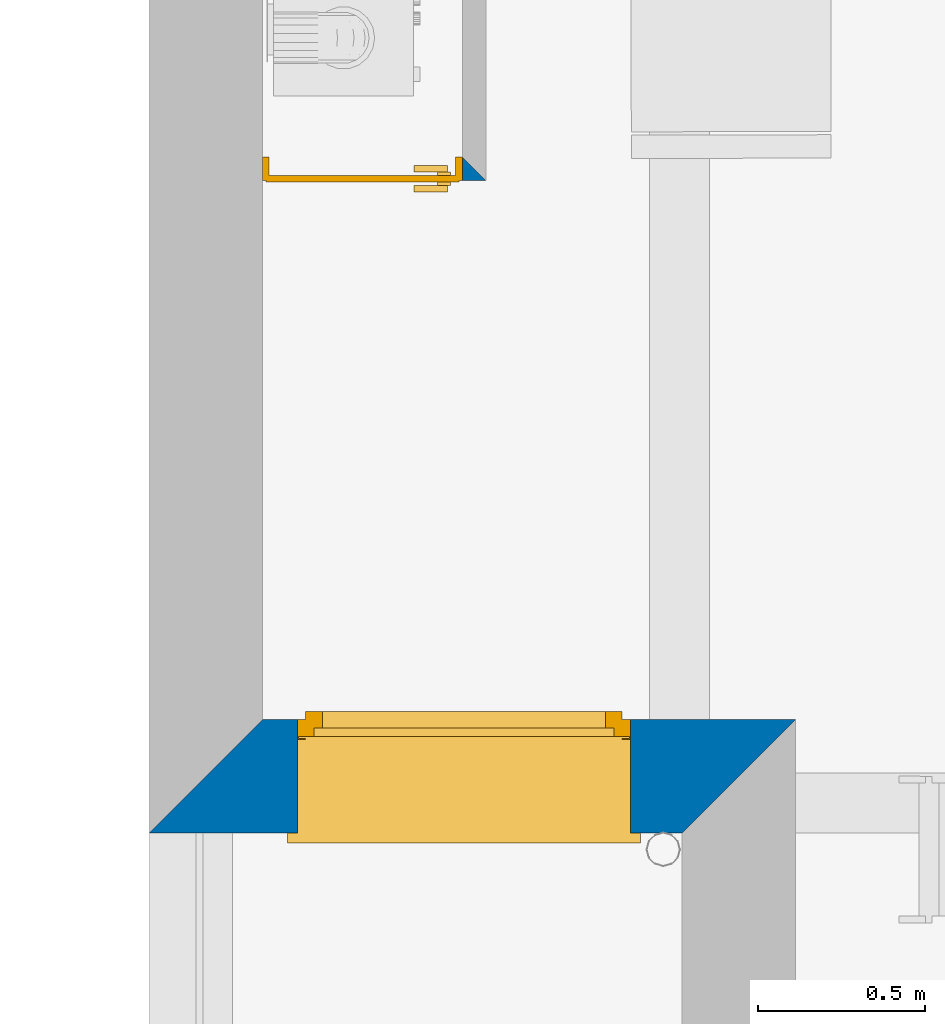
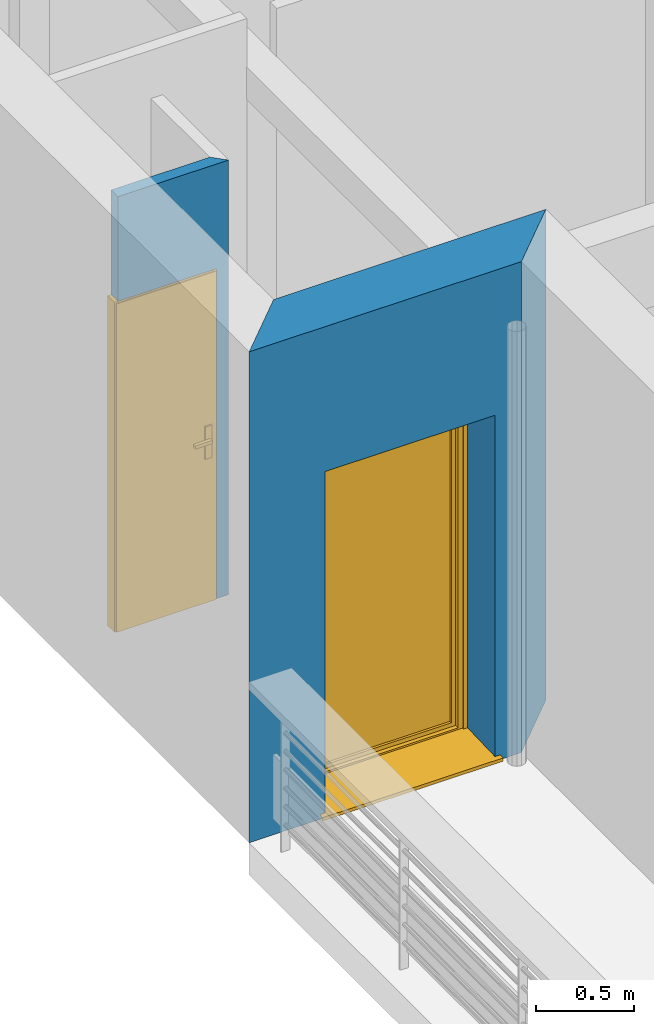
# One storey, part 3 of 165: 2 walls, 1 door, 1 window, 2 openings.
"""IFC2X3 building model written with IfcOpenShell, lengths in millimetres."""

from ifc_helpers import new_model, entity, si_unit, converted_unit, derived_unit, money_unit, direction, frame, origin_with_axes, origin_2d_with_axis, place, context, subcontext, project, spatial, polyline, rectangle, outline, extrude, open_shell, faceted_brep, surface_model, source, transform, mapped, material, layer, layer_set, layer_usage, type_object, element, fill, save


model = new_model("IFC2X3")

# Units and contexts
model_context = context("Model", 3, precision=0.01, world=origin_with_axes(), true_north=direction((0.0, 1.0)))
body_context = subcontext(model_context, "Body", "Model", "MODEL_VIEW")
ifc_project = project(units=[si_unit("LENGTHUNIT", "METRE", prefix="MILLI"), si_unit("AREAUNIT", "SQUARE_METRE"), si_unit("VOLUMEUNIT", "CUBIC_METRE"), converted_unit("PLANEANGLEUNIT", "DEGREE", entity("IfcPlaneAngleMeasure", 0.0174532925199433), si_unit("PLANEANGLEUNIT", "RADIAN"), dimensions=[0, 0, 0, 0, 0, 0, 0]), money_unit("USD"), converted_unit("TIMEUNIT", "Year", entity("IfcTimeMeasure", 31557600.0), si_unit("TIMEUNIT", "SECOND"), dimensions=[0, 0, 1, 0, 0, 0, 0]), si_unit("MASSUNIT", "GRAM", prefix="KILO"), si_unit("THERMODYNAMICTEMPERATUREUNIT", "DEGREE_CELSIUS"), si_unit("LUMINOUSINTENSITYUNIT", "LUMEN"), si_unit("ENERGYUNIT", "JOULE", prefix="MEGA"), derived_unit("THERMALCONDUCTANCEUNIT", [(si_unit("POWERUNIT", "WATT"), 1), (si_unit("LENGTHUNIT", "METRE"), -1), (si_unit("THERMODYNAMICTEMPERATUREUNIT", "KELVIN"), -1)]), derived_unit("SPECIFICHEATCAPACITYUNIT", [(si_unit("ENERGYUNIT", "JOULE"), 1), (si_unit("MASSUNIT", "GRAM", prefix="KILO"), -1), (si_unit("THERMODYNAMICTEMPERATUREUNIT", "KELVIN"), -1)]), derived_unit("MASSDENSITYUNIT", [(si_unit("MASSUNIT", "GRAM", prefix="KILO"), 1), (si_unit("VOLUMEUNIT", "CUBIC_METRE"), -1)])], contexts=[model_context])

# Site, building, storey
site_placement = place(None, origin_with_axes())
site = spatial("IfcSite", under=ifc_project, at=site_placement, Name="Site", CompositionType="ELEMENT")
building_placement = place(site_placement, origin_with_axes())
building = spatial("IfcBuilding", under=site, at=building_placement, Name="Bâtiment", CompositionType="ELEMENT")
storey_placement = place(building_placement, frame((0.0, 0.0, 8500.0), z_axis=(0.0, 0.0, 1.0), x_axis=(1.0, 0.0, 0.0)))
storey = spatial("IfcBuildingStorey", under=building, at=storey_placement, Name="Etage 2", CompositionType="ELEMENT", Elevation=8500.0)

# Wall, opening, door
ifc_material_1 = material(Name="Hachure solide 268963992")
ifc_layer_1 = layer(ifc_material_1, 70.0, ventilated="UNKNOWN")
ifc_layer_set_1 = layer_set([ifc_layer_1], Name="Cloison 70 0826278243")
ifc_layer_usage_1 = layer_usage(ifc_layer_set_1, "AXIS2", "NEGATIVE", 70.0)
wall_type_1 = type_object("IfcWallType", Name="Cloison 70 0826278243 70", PredefinedType="NOTDEFINED")
wall_1_placement = place(storey_placement, frame((2216994.233340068, -653082.9598893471, 0.0), z_axis=(0.0, 0.0, 1.0), x_axis=(1.0, 0.0, 0.0)))
wall_1 = element("IfcWallStandardCase", 1, at=wall_1_placement, inside=storey, type_object=wall_type_1, material=ifc_layer_usage_1, Name="Mur-149", context=body_context, shape_type="SweptSolid", body=[
    extrude(outline(polyline([(0.0, 0.0), (650.4101075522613, 0.0), (580.4101075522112, 69.99999999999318), (0.0, 69.99999999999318), (0.0, 0.0)])), origin_with_axes(), (0.0, 0.0, 1.0), 2700.0),
])
opening_1_placement = place(wall_1_placement, frame((279.9999999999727, 0.0, 0.0), z_axis=(0.0, 0.0, 1.0), x_axis=(1.0, 0.0, 0.0)))
opening_1 = element("IfcOpeningElement", 2, at=opening_1_placement, cuts=wall_1, Name="Por-274", context=body_context, shape_type="SweptSolid", body=[
    extrude(rectangle(XDim=600.0000000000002, YDim=2050.000000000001, at=origin_2d_with_axis()), frame((0.0, 69.99999999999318, 1025.0), z_axis=(0.0, -1.0, 0.0), x_axis=(-1.0, 0.0, 0.0)), (0.0, 0.0, 1.0), 140.0),
])
door_style = type_object("IfcDoorStyle", Name="Porte_1v", ConstructionType="NOTDEFINED", OperationType="NOTDEFINED", ParameterTakesPrecedence=False, Sizeable=False)
shared_shape_1 = source(origin_with_axes(), body_context, "Body", "Brep", [
    faceted_brep([(300.0, 0.0, 0.0), (290.0, 0.0, 0.0), (290.0, 0.0, 2040.0), (-290.0, 0.0, 2040.0), (-290.0, 0.0, 0.0), (-300.0, 0.0, 0.0), (-300.0, 0.0, 2050.0), (300.0, 0.0, 2050.0), (300.0, -70.0, 0.0), (279.9999999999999, -70.0, 0.0), (279.9999999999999, -15.0, 0.0), (290.0, -15.0, 0.0), (290.0, -15.0, 2040.0), (-290.0, -15.0, 2040.0), (-290.0, -15.0, 0.0), (-279.9999999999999, -15.0, 0.0), (-279.9999999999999, -70.0, 0.0), (-300.0, -70.0, 0.0), (-300.0, -70.0, 2050.0), (300.0, -70.0, 2050.0), (-279.9999999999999, -70.0, 2030.0), (279.9999999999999, -70.0, 2030.0), (279.9999999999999, -15.0, 2030.0), (-279.9999999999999, -15.0, 2030.0)], [[[0, 1, 2, 3, 4, 5, 6, 7]], [[0, 8, 9, 10, 11, 1]], [[1, 11, 12, 2]], [[2, 12, 13, 3]], [[3, 13, 14, 4]], [[5, 4, 14, 15, 16, 17]], [[18, 6, 5, 17]], [[19, 7, 6, 18]], [[8, 0, 7, 19]], [[9, 8, 19, 18, 17, 16, 20, 21]], [[10, 9, 21, 22]], [[11, 10, 22, 23, 15, 14, 13, 12]], [[23, 20, 16, 15]], [[22, 21, 20, 23]]]),
    faceted_brep([(-224.9999999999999, -15.0, 900.0), (-264.9999999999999, -15.0, 900.0), (-264.9999999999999, -15.0, 1100.0), (-224.9999999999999, -15.0, 1100.0), (-224.9999999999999, -25.0, 900.0), (-264.9999999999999, -25.0, 900.0), (-264.9999999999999, -25.0, 1100.0), (-224.9999999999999, -25.0, 1100.0)], [[[0, 1, 2, 3]], [[1, 0, 4, 5]], [[2, 1, 5, 6]], [[3, 2, 6, 7]], [[0, 3, 7, 4]], [[5, 4, 7, 6]]]),
    faceted_brep([(-154.9999999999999, -25.0, 1000.0), (-254.9999999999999, -25.0, 1000.0), (-254.9999999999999, -25.0, 1020.0), (-154.9999999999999, -25.0, 1020.0), (-154.9999999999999, -45.0, 1000.0), (-254.9999999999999, -45.0, 1000.0), (-254.9999999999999, -45.0, 1020.0), (-154.9999999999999, -45.0, 1020.0)], [[[0, 1, 2, 3]], [[1, 0, 4, 5]], [[2, 1, 5, 6]], [[3, 2, 6, 7]], [[0, 3, 7, 4]], [[5, 4, 7, 6]]]),
    faceted_brep([(-224.9999999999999, 15.0, 900.0), (-264.9999999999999, 15.0, 900.0), (-264.9999999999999, 15.0, 1100.0), (-224.9999999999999, 15.0, 1100.0), (-224.9999999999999, 5.000000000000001, 900.0), (-264.9999999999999, 5.000000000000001, 900.0), (-264.9999999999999, 5.000000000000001, 1100.0), (-224.9999999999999, 5.000000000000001, 1100.0)], [[[0, 1, 2, 3]], [[1, 0, 4, 5]], [[2, 1, 5, 6]], [[3, 2, 6, 7]], [[0, 3, 7, 4]], [[5, 4, 7, 6]]]),
    faceted_brep([(-154.9999999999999, 35.0, 1000.0), (-254.9999999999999, 35.0, 1000.0), (-254.9999999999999, 35.0, 1020.0), (-154.9999999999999, 35.0, 1020.0), (-154.9999999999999, 15.0, 1000.0), (-254.9999999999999, 15.0, 1000.0), (-254.9999999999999, 15.0, 1020.0), (-154.9999999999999, 15.0, 1020.0)], [[[0, 1, 2, 3]], [[1, 0, 4, 5]], [[2, 1, 5, 6]], [[3, 2, 6, 7]], [[0, 3, 7, 4]], [[5, 4, 7, 6]]]),
    faceted_brep([(-290.0, 5.000000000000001, 0.0), (290.0, 5.000000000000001, 0.0), (290.0, -15.0, 0.0), (-290.0, -15.0, 0.0), (-290.0, 5.000000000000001, 2040.0), (290.0, 5.000000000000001, 2040.0), (290.0, -15.0, 2040.0), (-290.0, -15.0, 2040.0)], [[[0, 1, 2, 3]], [[0, 4, 5, 1]], [[1, 5, 6, 2]], [[3, 2, 6, 7]], [[4, 0, 3, 7]], [[5, 4, 7, 6]]]),
])
door_placement = place(opening_1_placement, frame((289.9999999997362, 0.0, 0.0), z_axis=(0.0, 0.0, 1.0), x_axis=(-1.0, 0.0, 0.0)))
door = element("IfcDoor", 3, at=door_placement, inside=storey, type_object=door_style, Name="Por-274", OverallHeight=2040.0, OverallWidth=580.0, context=body_context, shape_type="MappedRepresentation", body=[
    mapped(shared_shape_1, transform((289.9999999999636, 0.0, 0.0))),
])
fill(opening_1, door)

# Wall, opening, window
ifc_material_2 = material(Name="Parpaing 312445824")
ifc_layer_2 = layer(ifc_material_2, 180.0, ventilated="UNKNOWN")
ifc_material_3 = material(Name="Isolant styromousse 301821074")
ifc_layer_3 = layer(ifc_material_3, 160.0, ventilated="UNKNOWN")
ifc_layer_set_2 = layer_set([ifc_layer_2, ifc_layer_3], Name="isol int 18+16 0018356637")
ifc_layer_usage_2 = layer_usage(ifc_layer_set_2, "AXIS2", "POSITIVE", 0.0)
wall_type_2 = type_object("IfcWallType", Name="isol int 18+16 0018356637 340", PredefinedType="NOTDEFINED")
wall_2_placement = place(storey_placement, frame((2216634.233338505, -655041.4677782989, 0.0), z_axis=(0.0, 0.0, 1.0), x_axis=(1.0, 0.0, 0.0)))
wall_2 = element("IfcWallStandardCase", 4, at=wall_2_placement, inside=storey, type_object=wall_type_2, material=ifc_layer_usage_2, Name="Mur-143", context=body_context, shape_type="SweptSolid", body=[
    extrude(outline(polyline([(0.0, 0.0), (1600.000000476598, 0.0), (1940.00000047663, 340.0000000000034), (340.0000001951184, 340.0000000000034), (0.0, 0.0)])), origin_with_axes(), (0.0, 0.0, 1.0), 3050.0),
])
opening_2_placement = place(wall_2_placement, frame((944.7801254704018, 0.0, 0.0), z_axis=(0.0, 0.0, 1.0), x_axis=(1.0, 0.0, 0.0)))
opening_2 = element("IfcOpeningElement", 5, at=opening_2_placement, cuts=wall_2, Name="Fen-209", context=body_context, shape_type="Brep", body=[
    faceted_brep([(-500.0, 341.0000000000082, 2150.0), (500.0, 341.0000000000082, 2150.0), (500.0, 341.0000000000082, 0.0), (-500.0, 341.0000000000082, 0.0), (-500.0, 530.0000000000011, 2150.0), (500.0, 530.0000000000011, 2150.0), (500.0, 290.0000000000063, 2150.0), (500.0, 290.0000000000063, 0.0), (500.0, -1.000000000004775, 0.0), (-500.0, -1.000000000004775, 0.0), (-500.0, 290.0000000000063, 0.0), (-500.0, 290.0000000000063, 2150.0), (-500.0, 280.0000000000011, 2150.0), (-500.0, 280.0000000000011, 2400.0), (-500.0, 530.0000000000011, 2400.0), (500.0, 530.0000000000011, 2400.0), (500.0, 280.0000000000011, 2400.0), (500.0, 280.0000000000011, 2150.0), (500.0, -1.000000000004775, 2150.0), (-500.0, -1.000000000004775, 2150.0)], [[[0, 1, 2, 3]], [[1, 0, 4, 5]], [[1, 6, 7, 2]], [[7, 8, 9, 10, 3, 2]], [[11, 0, 3, 10]], [[0, 11, 12, 13, 14, 4]], [[4, 14, 15, 5]], [[6, 1, 5, 15, 16, 17]], [[6, 17, 18, 8, 7]], [[19, 9, 8, 18]], [[12, 11, 10, 9, 19]], [[12, 17, 16, 13]], [[14, 13, 16, 15]], [[17, 12, 19, 18]]]),
])
window_style = type_object("IfcWindowStyle", Name="Fenêtre 27", ConstructionType="NOTDEFINED", OperationType="SINGLE_PANEL", ParameterTakesPrecedence=False, Sizeable=False)
shared_shape_2 = source(origin_with_axes(), body_context, "Body", "SurfaceModel", [
    surface_model("IfcShellBasedSurfaceModel", [(-500.0, -51.00000000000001, 40.00000000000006), (500.0, -51.00000000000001, 40.0), (500.0, -51.00000000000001, 50.0), (-500.0, -51.00000000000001, 50.00000000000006), (-530.0, -369.9999999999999, 28.96551724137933), (530.0, -369.9999999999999, 28.96551724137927), (530.0, -339.9999999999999, 30.00324289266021), (500.0, -339.9999999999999, 30.00324289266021), (-500.0, -339.9999999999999, 30.00324289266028), (-530.0, -339.9999999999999, 30.00324289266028), (-530.0, -369.9999999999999, 8.96551724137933), (530.0, -369.9999999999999, 8.965517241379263), (-530.0, -359.9999999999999, 18.96551724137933), (530.0, -359.9999999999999, 18.96551724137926)], [open_shell([[[0, 1, 2, 3]], [[4, 5, 6, 7, 1, 0, 8, 9]], [[10, 11, 5, 4]], [[12, 13, 11, 10]]])]),
    faceted_brep([(500.0, -59.99999999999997, 2400.0), (500.0, 190.0, 2400.0), (497.0, 190.0, 2400.0), (497.0, -59.99999999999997, 2400.0), (500.0, -59.99999999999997, 2150.0), (500.0, 190.0, 2150.0), (497.0, 190.0, 2150.0), (497.0, -59.99999999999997, 2150.0)], [[[0, 1, 2, 3]], [[0, 4, 5, 1]], [[1, 5, 6, 2]], [[3, 2, 6, 7]], [[4, 0, 3, 7]], [[5, 4, 7, 6]]]),
    faceted_brep([(-497.0, -59.99999999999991, 2400.0), (-497.0, 190.0000000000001, 2400.0), (-500.0, 190.0000000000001, 2400.0), (-500.0, -59.99999999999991, 2400.0), (-497.0, -59.99999999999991, 2150.0), (-497.0, 190.0000000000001, 2150.0), (-500.0, 190.0000000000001, 2150.0), (-500.0, -59.99999999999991, 2150.0)], [[[0, 1, 2, 3]], [[0, 4, 5, 1]], [[1, 5, 6, 2]], [[3, 2, 6, 7]], [[4, 0, 3, 7]], [[5, 4, 7, 6]]]),
    faceted_brep([(497.0, -60.0, 2150.0), (497.0, -60.0, 2400.0), (-497.0, -59.99999999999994, 2400.0), (-497.0, -59.99999999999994, 2150.0), (497.0, -56.99999999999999, 2150.0), (497.0, -56.99999999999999, 2397.0), (497.0, 187.0, 2397.0), (497.0, 187.0, 2153.0), (497.0, -37.99999999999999, 2153.0), (497.0, -37.99999999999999, 2150.0), (497.0, 190.0, 2150.0), (497.0, 190.0, 2400.0), (-497.0, 190.0000000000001, 2400.0), (-497.0, 190.0000000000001, 2150.0), (-497.0, -37.99999999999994, 2150.0), (-497.0, -37.99999999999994, 2153.0), (-497.0, 187.0000000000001, 2153.0), (-497.0, 187.0000000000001, 2397.0), (-497.0, -56.99999999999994, 2397.0), (-497.0, -56.99999999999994, 2150.0)], [[[0, 1, 2, 3]], [[0, 4, 5, 6, 7, 8, 9, 10, 11, 1]], [[1, 11, 12, 2]], [[3, 2, 12, 13, 14, 15, 16, 17, 18, 19]], [[4, 0, 3, 19]], [[5, 4, 19, 18]], [[6, 5, 18, 17]], [[7, 6, 17, 16]], [[8, 7, 16, 15]], [[9, 8, 15, 14]], [[10, 9, 14, 13]], [[11, 10, 13, 12]]]),
    faceted_brep([(494.0, -40.37442957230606, 2256.419644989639), (494.0, -35.54711042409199, 2238.403844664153), (494.0, -27.66471820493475, 2221.5), (494.0, -16.9667554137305, 2206.22172576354), (494.0, -3.778274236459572, 2193.033244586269), (494.0, 11.50000000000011, 2182.335281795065), (494.0, 28.40384466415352, 2174.452889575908), (494.0, 46.4196449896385, 2169.625570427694), (494.0, 65.00000000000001, 2168.0), (494.0, 83.58035501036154, 2169.625570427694), (494.0, 101.5961553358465, 2174.452889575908), (494.0, 118.4999999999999, 2182.335281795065), (494.0, 133.7782742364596, 2193.033244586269), (494.0, 146.9667554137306, 2206.22172576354), (494.0, 157.6647182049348, 2221.5), (494.0, 165.5471104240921, 2238.403844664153), (494.0, 170.3744295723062, 2256.419644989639), (494.0, 171.9999999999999, 2275.0), (494.0, 170.3744295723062, 2293.580355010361), (494.0, 165.5471104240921, 2311.596155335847), (494.0, 157.6647182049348, 2328.5), (494.0, 146.9667554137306, 2343.77827423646), (494.0, 133.7782742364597, 2356.96675541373), (494.0, 118.5, 2367.664718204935), (494.0, 101.5961553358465, 2375.547110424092), (494.0, 83.58035501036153, 2380.374429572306), (494.0, 64.99999999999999, 2382.0), (494.0, 46.41964498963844, 2380.374429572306), (494.0, 28.40384466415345, 2375.547110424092), (494.0, 11.5, 2367.664718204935), (494.0, -3.778274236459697, 2356.96675541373), (494.0, -16.96675541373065, 2343.77827423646), (494.0, -27.66471820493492, 2328.5), (494.0, -35.54711042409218, 2311.596155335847), (494.0, -40.37442957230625, 2293.580355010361), (494.0, -41.99999999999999, 2275.0), (-494.0, -40.374429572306, 2256.419644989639), (-494.0, -35.54711042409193, 2238.403844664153), (-494.0, -27.6647182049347, 2221.5), (-494.0, -16.96675541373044, 2206.22172576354), (-494.0, -3.778274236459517, 2193.033244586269), (-494.0, 11.50000000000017, 2182.335281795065), (-494.0, 28.40384466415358, 2174.452889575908), (-494.0, 46.41964498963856, 2169.625570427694), (-494.0, 65.00000000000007, 2168.0), (-494.0, 83.5803550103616, 2169.625570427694), (-494.0, 101.5961553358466, 2174.452889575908), (-494.0, 118.5, 2182.335281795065), (-494.0, 133.7782742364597, 2193.033244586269), (-494.0, 146.9667554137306, 2206.22172576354), (-494.0, 157.6647182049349, 2221.5), (-494.0, 165.5471104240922, 2238.403844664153), (-494.0, 170.3744295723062, 2256.419644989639), (-494.0, 172.0, 2275.0), (-494.0, 170.3744295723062, 2293.580355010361), (-494.0, 165.5471104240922, 2311.596155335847), (-494.0, 157.6647182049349, 2328.5), (-494.0, 146.9667554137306, 2343.77827423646), (-494.0, 133.7782742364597, 2356.96675541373), (-494.0, 118.5, 2367.664718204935), (-494.0, 101.5961553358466, 2375.547110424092), (-494.0, 83.58035501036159, 2380.374429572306), (-494.0, 65.00000000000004, 2382.0), (-494.0, 46.41964498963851, 2380.374429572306), (-494.0, 28.40384466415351, 2375.547110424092), (-494.0, 11.50000000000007, 2367.664718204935), (-494.0, -3.778274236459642, 2356.96675541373), (-494.0, -16.96675541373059, 2343.77827423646), (-494.0, -27.66471820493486, 2328.5), (-494.0, -35.54711042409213, 2311.596155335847), (-494.0, -40.37442957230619, 2293.580355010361), (-494.0, -41.99999999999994, 2275.0)], [[[0, 1, 2, 3, 4, 5, 6, 7, 8, 9, 10, 11, 12, 13, 14, 15, 16, 17, 18, 19, 20, 21, 22, 23, 24, 25, 26, 27, 28, 29, 30, 31, 32, 33, 34, 35]], [[1, 0, 36, 37]], [[2, 1, 37, 38]], [[3, 2, 38, 39]], [[4, 3, 39, 40]], [[5, 4, 40, 41]], [[6, 5, 41, 42]], [[7, 6, 42, 43]], [[8, 7, 43, 44]], [[9, 8, 44, 45]], [[10, 9, 45, 46]], [[11, 10, 46, 47]], [[12, 11, 47, 48]], [[13, 12, 48, 49]], [[14, 13, 49, 50]], [[15, 14, 50, 51]], [[16, 15, 51, 52]], [[17, 16, 52, 53]], [[18, 17, 53, 54]], [[19, 18, 54, 55]], [[20, 19, 55, 56]], [[21, 20, 56, 57]], [[22, 21, 57, 58]], [[23, 22, 58, 59]], [[24, 23, 59, 60]], [[25, 24, 60, 61]], [[26, 25, 61, 62]], [[27, 26, 62, 63]], [[28, 27, 63, 64]], [[29, 28, 64, 65]], [[30, 29, 65, 66]], [[31, 30, 66, 67]], [[32, 31, 67, 68]], [[33, 32, 68, 69]], [[34, 33, 69, 70]], [[35, 34, 70, 71]], [[0, 35, 71, 36]], [[36, 71, 70, 69, 68, 67, 66, 65, 64, 63, 62, 61, 60, 59, 58, 57, 56, 55, 54, 53, 52, 51, 50, 49, 48, 47, 46, 45, 44, 43, 42, 41, 40, 39, 38, 37]]]),
    faceted_brep([(-500.0, -34.99999999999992, 30.0), (-500.0, -59.99999999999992, 30.0), (-500.0, -59.99999999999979, 2150.0), (-500.0, -34.99999999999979, 2150.0), (-475.0, -34.99999999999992, 30.0), (-475.0, -37.99999999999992, 30.0), (-497.0, -37.99999999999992, 30.0), (-497.0, -56.99999999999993, 30.0), (-475.0, -56.99999999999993, 30.0), (-475.0, -59.99999999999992, 30.0), (-475.0, -59.99999999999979, 2150.0), (-475.0, -56.99999999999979, 2150.0), (-497.0, -56.99999999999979, 2150.0), (-497.0, -37.99999999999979, 2150.0), (-475.0, -37.99999999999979, 2150.0), (-475.0, -34.99999999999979, 2150.0)], [[[0, 1, 2, 3]], [[0, 4, 5, 6, 7, 8, 9, 1]], [[1, 9, 10, 2]], [[3, 2, 10, 11, 12, 13, 14, 15]], [[4, 0, 3, 15]], [[5, 4, 15, 14]], [[6, 5, 14, 13]], [[7, 6, 13, 12]], [[8, 7, 12, 11]], [[9, 8, 11, 10]]]),
    faceted_brep([(500.0, -34.99999999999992, 30.0), (500.0, -34.99999999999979, 2150.0), (500.0, -59.99999999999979, 2150.0), (500.0, -59.99999999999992, 30.0), (475.0, -34.99999999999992, 30.0), (475.0, -34.99999999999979, 2150.0), (475.0, -37.99999999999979, 2150.0), (497.0, -37.99999999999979, 2150.0), (497.0, -56.99999999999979, 2150.0), (475.0, -56.99999999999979, 2150.0), (475.0, -59.99999999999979, 2150.0), (475.0, -59.99999999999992, 30.0), (475.0, -56.99999999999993, 30.0), (497.0, -56.99999999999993, 30.0), (497.0, -37.99999999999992, 30.0), (475.0, -37.99999999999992, 30.0)], [[[0, 1, 2, 3]], [[4, 5, 1, 0]], [[1, 5, 6, 7, 8, 9, 10, 2]], [[3, 2, 10, 11]], [[0, 3, 11, 12, 13, 14, 15, 4]], [[15, 6, 5, 4]], [[14, 7, 6, 15]], [[13, 8, 7, 14]], [[12, 9, 8, 13]], [[11, 10, 9, 12]]]),
    faceted_brep([(-497.0, -46.66666666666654, 2275.0), (497.0, -46.6666666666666, 2275.0), (497.0, -46.6666666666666, 2266.666666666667), (-497.0, -46.66666666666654, 2266.666666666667), (-497.0, -51.66666666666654, 2275.0), (497.0, -51.6666666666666, 2275.0), (497.0, -51.6666666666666, 2266.666666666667), (497.0, -49.99999999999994, 2250.0), (497.0, -44.99999999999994, 2250.0), (-497.0, -44.99999999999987, 2250.0), (-497.0, -49.99999999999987, 2250.0), (-497.0, -51.66666666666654, 2266.666666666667)], [[[0, 1, 2, 3]], [[1, 0, 4, 5]], [[1, 5, 6, 7, 8, 2]], [[2, 8, 9, 3]], [[4, 0, 3, 9, 10, 11]], [[6, 5, 4, 11]], [[7, 6, 11, 10]], [[8, 7, 10, 9]]]),
    faceted_brep([(497.0, -44.99999999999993, 2250.0), (497.0, -46.6666666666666, 2233.333333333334), (-497.0, -46.66666666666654, 2233.333333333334), (-497.0, -44.99999999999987, 2250.0), (497.0, -49.99999999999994, 2250.0), (497.0, -51.6666666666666, 2233.333333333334), (497.0, -51.6666666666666, 2216.666666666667), (497.0, -49.99999999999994, 2200.0), (497.0, -44.99999999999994, 2200.0), (497.0, -46.6666666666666, 2216.666666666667), (-497.0, -46.66666666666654, 2216.666666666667), (-497.0, -44.99999999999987, 2200.0), (-497.0, -49.99999999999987, 2200.0), (-497.0, -51.66666666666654, 2216.666666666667), (-497.0, -51.66666666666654, 2233.333333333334), (-497.0, -49.99999999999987, 2250.0)], [[[0, 1, 2, 3]], [[0, 4, 5, 6, 7, 8, 9, 1]], [[1, 9, 10, 2]], [[3, 2, 10, 11, 12, 13, 14, 15]], [[4, 0, 3, 15]], [[5, 4, 15, 14]], [[6, 5, 14, 13]], [[7, 6, 13, 12]], [[8, 7, 12, 11]], [[9, 8, 11, 10]]]),
    faceted_brep([(497.0, -44.99999999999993, 2200.0), (497.0, -46.6666666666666, 2183.333333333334), (-497.0, -46.66666666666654, 2183.333333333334), (-497.0, -44.99999999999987, 2200.0), (497.0, -49.99999999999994, 2200.0), (497.0, -51.6666666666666, 2183.333333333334), (497.0, -51.6666666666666, 2166.666666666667), (497.0, -49.99999999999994, 2150.000000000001), (497.0, -44.99999999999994, 2150.000000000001), (497.0, -46.6666666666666, 2166.666666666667), (-497.0, -46.66666666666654, 2166.666666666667), (-497.0, -44.99999999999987, 2150.000000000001), (-497.0, -49.99999999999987, 2150.000000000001), (-497.0, -51.66666666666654, 2166.666666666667), (-497.0, -51.66666666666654, 2183.333333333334), (-497.0, -49.99999999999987, 2200.0)], [[[0, 1, 2, 3]], [[0, 4, 5, 6, 7, 8, 9, 1]], [[1, 9, 10, 2]], [[3, 2, 10, 11, 12, 13, 14, 15]], [[4, 0, 3, 15]], [[5, 4, 15, 14]], [[6, 5, 14, 13]], [[7, 6, 13, 12]], [[8, 7, 12, 11]], [[9, 8, 11, 10]]]),
    faceted_brep([(475.0000000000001, 0.0, 2100.0), (475.0000000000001, -25.00000000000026, 2100.0), (450.0, -25.00000000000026, 2100.0), (450.0, -50.00000000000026, 2100.0), (500.0, -50.00000000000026, 2100.0), (500.0, 0.0, 2100.0), (475.0000000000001, 0.0, 50.00000000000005), (475.0000000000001, -25.00000000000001, 50.00000000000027), (450.0, -25.00000000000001, 50.00000000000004), (450.0, -50.00000000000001, 50.00000000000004), (500.0, -50.00000000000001, 50.00000000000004), (500.0, 0.0, 50.00000000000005)], [[[0, 1, 2, 3, 4, 5]], [[1, 0, 6, 7]], [[8, 2, 1, 7]], [[2, 8, 9, 3]], [[4, 3, 9, 10]], [[5, 4, 10, 11]], [[6, 0, 5, 11]], [[7, 6, 11, 10, 9, 8]]]),
    faceted_brep([(-450.0, -25.00000000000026, 2100.0), (-475.0000000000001, -25.00000000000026, 2100.0), (-475.0000000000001, 0.0, 2100.0), (-500.0, 0.0, 2100.0), (-500.0, -50.00000000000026, 2100.0), (-450.0, -50.00000000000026, 2100.0), (-450.0, -25.00000000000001, 50.00000000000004), (-475.0000000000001, -25.00000000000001, 50.00000000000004), (-475.0000000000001, 0.0, 50.00000000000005), (-500.0, 0.0, 50.00000000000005), (-500.0, -50.00000000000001, 50.00000000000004), (-450.0, -50.00000000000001, 50.00000000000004)], [[[0, 1, 2, 3, 4, 5]], [[1, 0, 6, 7]], [[8, 2, 1, 7]], [[2, 8, 9, 3]], [[9, 10, 4, 3]], [[10, 11, 5, 4]], [[6, 0, 5, 11]], [[7, 6, 11, 10, 9, 8]]]),
    faceted_brep([(-450.0, -25.00000000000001, 50.00000000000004), (-475.0000000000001, -25.00000000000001, 50.00000000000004), (-475.0000000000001, 0.0, 50.00000000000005), (-500.0, 0.0, 50.00000000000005), (-500.0, -50.00000000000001, 50.00000000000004), (-450.0, -50.00000000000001, 50.00000000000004), (450.0, -25.00000000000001, 50.00000000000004), (475.0000000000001, -25.00000000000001, 50.00000000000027), (475.0000000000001, -25.0, 24.99999999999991), (-475.0000000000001, -25.0, 24.99999999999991), (-475.0000000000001, 0.0, 24.99999999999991), (475.0000000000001, 0.0, 24.99999999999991), (475.0000000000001, 0.0, 50.00000000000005), (500.0, 0.0, 50.00000000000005), (500.0, 0.0, 0.0), (-500.0, 0.0, 0.0), (-500.0, -50.0, 0.0), (500.0, -50.00000000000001, 50.00000000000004), (450.0, -50.00000000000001, 50.00000000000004), (500.0, -50.0, 0.0)], [[[0, 1, 2, 3, 4, 5]], [[1, 0, 6, 7, 8, 9]], [[10, 2, 1, 9]], [[11, 12, 13, 14, 15, 3, 2, 10]], [[15, 16, 4, 3]], [[17, 18, 5, 4, 16, 19]], [[6, 0, 5, 18]], [[7, 6, 18, 17, 13, 12]], [[7, 12, 11, 8]], [[11, 10, 9, 8]], [[13, 17, 19, 14]], [[14, 19, 16, 15]]]),
    faceted_brep([(475.0000000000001, 0.0, 2100.0), (475.0000000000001, 0.0, 2125.0), (-475.0000000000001, 0.0, 2125.0), (-475.0000000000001, 0.0, 2100.0), (-500.0, 0.0, 2100.0), (-500.0, 0.0, 2150.0), (500.0, 0.0, 2150.0), (500.0, 0.0, 2100.0), (475.0000000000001, -25.00000000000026, 2100.0), (475.0000000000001, -25.00000000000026, 2125.0), (-475.0000000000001, -25.00000000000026, 2125.0), (-475.0000000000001, -25.00000000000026, 2100.0), (-450.0, -25.00000000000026, 2100.0), (-450.0, -50.00000000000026, 2100.0), (-500.0, -50.00000000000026, 2100.0), (-500.0, -50.00000000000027, 2150.0), (500.0, -50.00000000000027, 2150.0), (500.0, -50.00000000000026, 2100.0), (450.0, -50.00000000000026, 2100.0), (450.0, -25.00000000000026, 2100.0)], [[[0, 1, 2, 3, 4, 5, 6, 7]], [[1, 0, 8, 9]], [[2, 1, 9, 10]], [[3, 2, 10, 11]], [[11, 12, 13, 14, 4, 3]], [[4, 14, 15, 5]], [[5, 15, 16, 6]], [[6, 16, 17, 7]], [[8, 0, 7, 17, 18, 19]], [[12, 11, 10, 9, 8, 19]], [[12, 19, 18, 13]], [[14, 13, 18, 17, 16, 15]]]),
    faceted_brep([(425.0000000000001, -25.00000000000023, 2075.0), (475.0000000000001, -25.00000000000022, 2075.0), (475.0000000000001, 24.99999999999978, 2075.0), (425.0000000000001, 24.99999999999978, 2075.0), (425.0000000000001, -24.99999999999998, 75.00000000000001), (475.0000000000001, -24.99999999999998, 75.00000000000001), (475.0000000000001, 25.00000000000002, 75.00000000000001), (425.0000000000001, 25.00000000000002, 75.00000000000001)], [[[0, 1, 2, 3]], [[0, 4, 5, 1]], [[1, 5, 6, 2]], [[3, 2, 6, 7]], [[4, 0, 3, 7]], [[5, 4, 7, 6]]]),
    faceted_brep([(-425.0000000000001, -25.00000000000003, 75.00000000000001), (-475.0000000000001, -25.00000000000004, 75.00000000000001), (-475.0000000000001, 24.99999999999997, 75.00000000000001), (-425.0000000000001, 24.99999999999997, 75.00000000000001), (-425.0000000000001, -25.00000000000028, 2075.0), (-475.0000000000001, -25.00000000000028, 2075.0), (-475.0000000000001, 24.99999999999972, 2075.0), (-425.0000000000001, 24.99999999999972, 2075.0)], [[[0, 1, 2, 3]], [[0, 4, 5, 1]], [[1, 5, 6, 2]], [[3, 2, 6, 7]], [[4, 0, 3, 7]], [[5, 4, 7, 6]]]),
    faceted_brep([(-475.0000000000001, -25.00000000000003, 25.0), (-475.0000000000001, -25.00000000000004, 75.00000000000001), (-475.0000000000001, 24.99999999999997, 75.00000000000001), (-475.0000000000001, 24.99999999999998, 25.00000000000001), (475.0000000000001, -24.99999999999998, 25.0), (475.0000000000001, -24.99999999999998, 75.00000000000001), (425.0000000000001, -24.99999999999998, 75.00000000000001), (-425.0000000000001, -25.00000000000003, 75.00000000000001), (-425.0000000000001, 24.99999999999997, 75.00000000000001), (425.0000000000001, 25.00000000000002, 75.00000000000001), (475.0000000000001, 25.00000000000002, 75.00000000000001), (475.0000000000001, 25.00000000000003, 25.00000000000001)], [[[0, 1, 2, 3]], [[0, 4, 5, 6, 7, 1]], [[1, 7, 8, 2]], [[3, 2, 8, 9, 10, 11]], [[4, 0, 3, 11]], [[5, 4, 11, 10]], [[6, 5, 10, 9]], [[7, 6, 9, 8]]]),
    faceted_brep([(475.0000000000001, -25.00000000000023, 2125.0), (475.0000000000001, -25.00000000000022, 2075.0), (475.0000000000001, 24.99999999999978, 2075.0), (475.0000000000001, 24.99999999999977, 2125.0), (-475.0000000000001, -25.00000000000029, 2125.0), (-475.0000000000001, -25.00000000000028, 2075.0), (-425.0000000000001, -25.00000000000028, 2075.0), (425.0000000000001, -25.00000000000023, 2075.0), (425.0000000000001, 24.99999999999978, 2075.0), (-425.0000000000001, 24.99999999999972, 2075.0), (-475.0000000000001, 24.99999999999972, 2075.0), (-475.0000000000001, 24.99999999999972, 2125.0)], [[[0, 1, 2, 3]], [[0, 4, 5, 6, 7, 1]], [[1, 7, 8, 2]], [[3, 2, 8, 9, 10, 11]], [[4, 0, 3, 11]], [[5, 4, 11, 10]], [[6, 5, 10, 9]], [[7, 6, 9, 8]]]),
    surface_model("IfcShellBasedSurfaceModel", [(425.0000000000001, -10.00000000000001, 75.00000000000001), (425.0000000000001, -10.00000000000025, 2075.0), (-425.0000000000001, -10.00000000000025, 2075.0), (-425.0000000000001, -10.00000000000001, 75.00000000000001)], [open_shell([[[0, 1, 2, 3]]])]),
    surface_model("IfcShellBasedSurfaceModel", [(425.0000000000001, 9.999999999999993, 75.00000000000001), (-425.0000000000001, 9.999999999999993, 75.00000000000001), (-425.0000000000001, 9.99999999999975, 2075.0), (425.0000000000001, 9.99999999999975, 2075.0)], [open_shell([[[0, 1, 2, 3]]])]),
])
window_placement = place(opening_2_placement, frame((-500.0000000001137, 0.0, 0.0), z_axis=(0.0, 0.0, 1.0), x_axis=(1.0, 0.0, 0.0)))
window = element("IfcWindow", 6, at=window_placement, inside=storey, type_object=window_style, Name="Fen-209", OverallHeight=2150.0, OverallWidth=1000.0, context=body_context, shape_type="MappedRepresentation", body=[
    mapped(shared_shape_2, transform((500.0, 340.0000000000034, 0.0))),
])
fill(opening_2, window)

save(model, "model.ifc")
